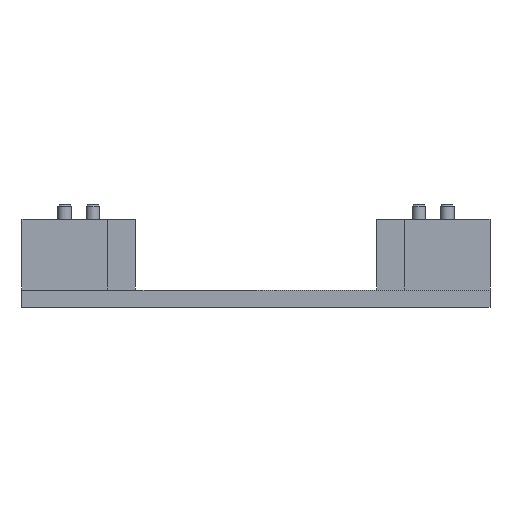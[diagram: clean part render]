
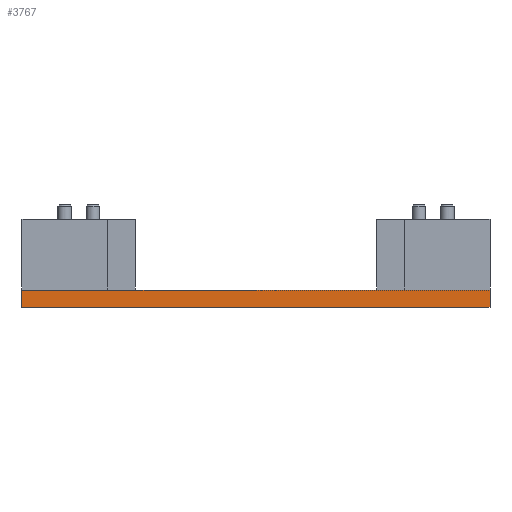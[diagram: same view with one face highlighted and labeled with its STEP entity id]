
A CAD part, front view. The second image highlights one B-rep face of the part: STEP entity #3767.
In plain terms, the highlighted planar face has unit normal (0, -1, 0).
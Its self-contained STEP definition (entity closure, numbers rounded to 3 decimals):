
#3728=CARTESIAN_POINT('Axis2P3D Location',(0.,10.,0.)) ;
#3733=CARTESIAN_POINT('Line Origine',(165.,10.,0.)) ;
#3737=CARTESIAN_POINT('Vertex',(0.,10.,0.)) ;
#3739=CARTESIAN_POINT('Vertex',(330.,10.,0.)) ;
#3742=CARTESIAN_POINT('Line Origine',(330.,10.,6.)) ;
#3746=CARTESIAN_POINT('Vertex',(330.,10.,12.)) ;
#3749=CARTESIAN_POINT('Line Origine',(165.,10.,12.)) ;
#3753=CARTESIAN_POINT('Vertex',(0.,10.,12.)) ;
#3756=CARTESIAN_POINT('Line Origine',(0.,10.,6.)) ;
#3729=DIRECTION('Axis2P3D Direction',(0.,-1.,0.)) ;
#3730=DIRECTION('Axis2P3D XDirection',(1.,0.,0.)) ;
#3734=DIRECTION('Vector Direction',(1.,0.,0.)) ;
#3743=DIRECTION('Vector Direction',(0.,0.,1.)) ;
#3750=DIRECTION('Vector Direction',(1.,0.,0.)) ;
#3757=DIRECTION('Vector Direction',(0.,0.,1.)) ;
#3731=AXIS2_PLACEMENT_3D('Plane Axis2P3D',#3728,#3729,#3730) ;
#3762=ORIENTED_EDGE('',*,*,#3741,.T.) ;
#3763=ORIENTED_EDGE('',*,*,#3748,.T.) ;
#3764=ORIENTED_EDGE('',*,*,#3755,.F.) ;
#3765=ORIENTED_EDGE('',*,*,#3760,.F.) ;
#3735=VECTOR('Line Direction',#3734,1.) ;
#3744=VECTOR('Line Direction',#3743,1.) ;
#3751=VECTOR('Line Direction',#3750,1.) ;
#3758=VECTOR('Line Direction',#3757,1.) ;
#3767=ADVANCED_FACE('\X2\96F64EF651E04F554F53\X0\',(#3766),#3732,.T.) ;
#3741=EDGE_CURVE('',#3738,#3740,#3736,.T.) ;
#3748=EDGE_CURVE('',#3740,#3747,#3745,.T.) ;
#3755=EDGE_CURVE('',#3754,#3747,#3752,.T.) ;
#3760=EDGE_CURVE('',#3738,#3754,#3759,.T.) ;
#3761=EDGE_LOOP('',(#3762,#3763,#3764,#3765)) ;
#3766=FACE_OUTER_BOUND('',#3761,.T.) ;
#3736=LINE('Line',#3733,#3735) ;
#3745=LINE('Line',#3742,#3744) ;
#3752=LINE('Line',#3749,#3751) ;
#3759=LINE('Line',#3756,#3758) ;
#3732=PLANE('',#3731) ;
#3738=VERTEX_POINT('',#3737) ;
#3740=VERTEX_POINT('',#3739) ;
#3747=VERTEX_POINT('',#3746) ;
#3754=VERTEX_POINT('',#3753) ;
